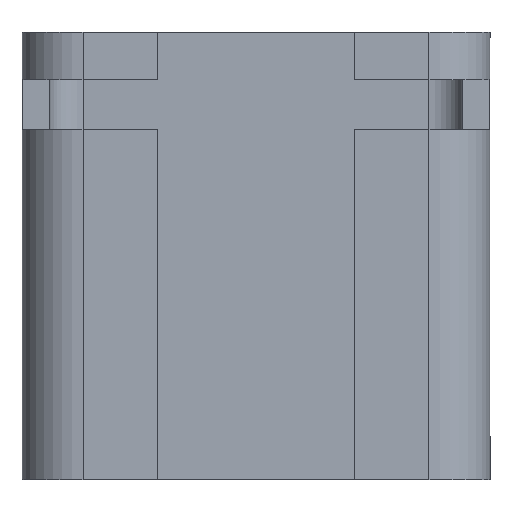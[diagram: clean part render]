
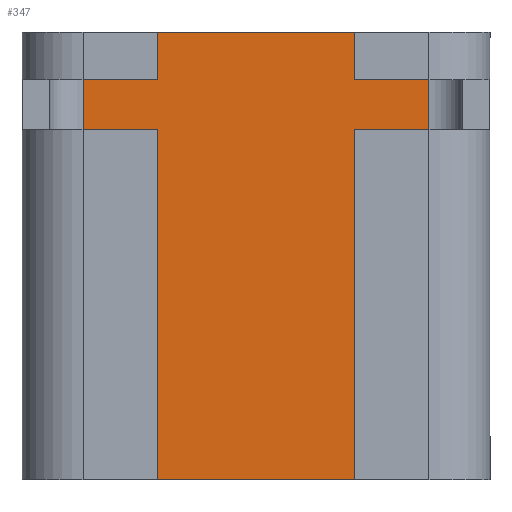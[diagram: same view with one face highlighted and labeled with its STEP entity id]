
A CAD part, front view. The second image highlights one B-rep face of the part: STEP entity #347.
In plain terms, the highlighted planar face has unit normal (0, -1, 0).
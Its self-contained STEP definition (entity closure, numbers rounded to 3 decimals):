
#4 = CARTESIAN_POINT ( 'NONE',  ( 4., 2.63, 0. ) ) ;
#19 = EDGE_CURVE ( 'NONE', #1810, #358, #384, .T. ) ;
#33 = LINE ( 'NONE', #1420, #1567 ) ;
#96 = CARTESIAN_POINT ( 'NONE',  ( -2., 2.63, -6.6 ) ) ;
#115 = DIRECTION ( 'NONE',  ( 1., 0., 0. ) ) ;
#210 = CARTESIAN_POINT ( 'NONE',  ( 4., 2.63, -6.6 ) ) ;
#293 = ORIENTED_EDGE ( 'NONE', *, *, #631, .T. ) ;
#311 = CARTESIAN_POINT ( 'NONE',  ( 4., 2.63, -6.6 ) ) ;
#334 = ORIENTED_EDGE ( 'NONE', *, *, #583, .F. ) ;
#347 = ADVANCED_FACE ( 'NONE', ( #2003 ), #953, .T. ) ;
#358 = VERTEX_POINT ( 'NONE', #4 ) ;
#384 = LINE ( 'NONE', #210, #1107 ) ;
#401 = VECTOR ( 'NONE', #115, 1000. ) ;
#407 = CARTESIAN_POINT ( 'NONE',  ( -1.1, 2.63, 0. ) ) ;
#455 = DIRECTION ( 'NONE',  ( 1., 0., 0. ) ) ;
#527 = DIRECTION ( 'NONE',  ( 0., 0., 1. ) ) ;
#551 = DIRECTION ( 'NONE',  ( 1., 0., 0. ) ) ;
#583 = EDGE_CURVE ( 'NONE', #1215, #358, #1206, .T. ) ;
#631 = EDGE_CURVE ( 'NONE', #1903, #1810, #1824, .T. ) ;
#738 = CARTESIAN_POINT ( 'NONE',  ( -2., 2.63, 0. ) ) ;
#857 = ORIENTED_EDGE ( 'NONE', *, *, #19, .T. ) ;
#953 = PLANE ( 'NONE',  #979 ) ;
#979 = AXIS2_PLACEMENT_3D ( 'NONE', #1229, #1236, #455 ) ;
#1016 = VECTOR ( 'NONE', #551, 1000. ) ;
#1107 = VECTOR ( 'NONE', #527, 1000. ) ;
#1137 = CARTESIAN_POINT ( 'NONE',  ( -1.1, 2.63, -6.6 ) ) ;
#1206 = LINE ( 'NONE', #738, #401 ) ;
#1215 = VERTEX_POINT ( 'NONE', #407 ) ;
#1229 = CARTESIAN_POINT ( 'NONE',  ( -2., 2.63, -6.6 ) ) ;
#1236 = DIRECTION ( 'NONE',  ( 0., -1., 0. ) ) ;
#1264 = DIRECTION ( 'NONE',  ( 0., 0., 1. ) ) ;
#1283 = ORIENTED_EDGE ( 'NONE', *, *, #1428, .F. ) ;
#1420 = CARTESIAN_POINT ( 'NONE',  ( -1.1, 2.63, -6.6 ) ) ;
#1428 = EDGE_CURVE ( 'NONE', #1903, #1215, #33, .T. ) ;
#1567 = VECTOR ( 'NONE', #1264, 1000. ) ;
#1630 = EDGE_LOOP ( 'NONE', ( #334, #1283, #293, #857 ) ) ;
#1810 = VERTEX_POINT ( 'NONE', #311 ) ;
#1824 = LINE ( 'NONE', #96, #1016 ) ;
#1903 = VERTEX_POINT ( 'NONE', #1137 ) ;
#2003 = FACE_OUTER_BOUND ( 'NONE', #1630, .T. ) ;
